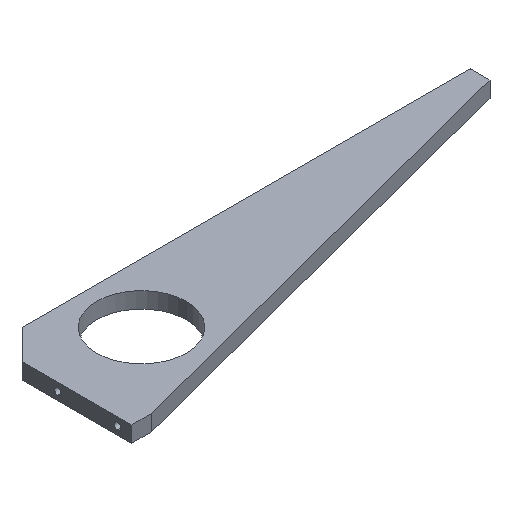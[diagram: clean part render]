
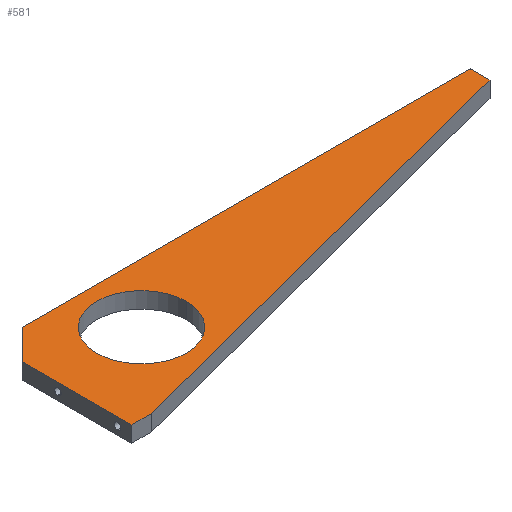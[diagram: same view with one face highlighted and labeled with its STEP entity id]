
A CAD part, isometric view. The second image highlights one B-rep face of the part: STEP entity #581.
In plain terms, the highlighted planar face has unit normal (0, 0, 1).
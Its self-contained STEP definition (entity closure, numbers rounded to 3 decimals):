
#4 = VERTEX_POINT ( 'NONE', #22 ) ;
#8 = EDGE_LOOP ( 'NONE', ( #50, #718 ) ) ;
#22 = CARTESIAN_POINT ( 'NONE',  ( 0., -15., 8. ) ) ;
#25 = ORIENTED_EDGE ( 'NONE', *, *, #105, .T. ) ;
#31 = CARTESIAN_POINT ( 'NONE',  ( 240., 0., 8. ) ) ;
#35 = VERTEX_POINT ( 'NONE', #778 ) ;
#50 = ORIENTED_EDGE ( 'NONE', *, *, #440, .F. ) ;
#57 = CARTESIAN_POINT ( 'NONE',  ( 10., -70., 8. ) ) ;
#62 = VECTOR ( 'NONE', #776, 1000. ) ;
#82 = ORIENTED_EDGE ( 'NONE', *, *, #811, .T. ) ;
#105 = EDGE_CURVE ( 'NONE', #4, #35, #369, .T. ) ;
#108 = DIRECTION ( 'NONE',  ( -1., 0., 0. ) ) ;
#112 = LINE ( 'NONE', #126, #62 ) ;
#126 = CARTESIAN_POINT ( 'NONE',  ( 10., -70., 8. ) ) ;
#127 = AXIS2_PLACEMENT_3D ( 'NONE', #325, #179, #651 ) ;
#155 = VECTOR ( 'NONE', #108, 1000. ) ;
#162 = VERTEX_POINT ( 'NONE', #762 ) ;
#179 = DIRECTION ( 'NONE',  ( 0., 0., 1. ) ) ;
#218 = CARTESIAN_POINT ( 'NONE',  ( 240., -10., 8. ) ) ;
#224 = CARTESIAN_POINT ( 'NONE',  ( 7.5, -7.5, 8. ) ) ;
#227 = LINE ( 'NONE', #224, #348 ) ;
#253 = EDGE_CURVE ( 'NONE', #35, #409, #547, .T. ) ;
#256 = VERTEX_POINT ( 'NONE', #611 ) ;
#285 = LINE ( 'NONE', #218, #406 ) ;
#304 = LINE ( 'NONE', #31, #155 ) ;
#308 = AXIS2_PLACEMENT_3D ( 'NONE', #624, #366, #690 ) ;
#313 = VERTEX_POINT ( 'NONE', #751 ) ;
#323 = VECTOR ( 'NONE', #598, 1000. ) ;
#325 = CARTESIAN_POINT ( 'NONE',  ( 45., -30., 8. ) ) ;
#332 = DIRECTION ( 'NONE',  ( 1., 0., 0. ) ) ;
#335 = FACE_OUTER_BOUND ( 'NONE', #818, .T. ) ;
#348 = VECTOR ( 'NONE', #747, 1000. ) ;
#356 = CARTESIAN_POINT ( 'NONE',  ( 22.5, -30., 8. ) ) ;
#366 = DIRECTION ( 'NONE',  ( 0., 0., 1. ) ) ;
#369 = LINE ( 'NONE', #643, #772 ) ;
#400 = FACE_BOUND ( 'NONE', #8, .T. ) ;
#405 = EDGE_CURVE ( 'NONE', #409, #162, #112, .T. ) ;
#406 = VECTOR ( 'NONE', #620, 1000. ) ;
#409 = VERTEX_POINT ( 'NONE', #57 ) ;
#415 = CARTESIAN_POINT ( 'NONE',  ( 240., 0., 8. ) ) ;
#424 = ORIENTED_EDGE ( 'NONE', *, *, #253, .T. ) ;
#440 = EDGE_CURVE ( 'NONE', #313, #793, #499, .T. ) ;
#463 = ORIENTED_EDGE ( 'NONE', *, *, #728, .T. ) ;
#484 = AXIS2_PLACEMENT_3D ( 'NONE', #607, #719, #332 ) ;
#499 = CIRCLE ( 'NONE', #127, 22.5 ) ;
#534 = PLANE ( 'NONE',  #484 ) ;
#547 = LINE ( 'NONE', #720, #323 ) ;
#581 = ADVANCED_FACE ( 'NONE', ( #400, #335 ), #534, .T. ) ;
#598 = DIRECTION ( 'NONE',  ( 1., 0., 0. ) ) ;
#607 = CARTESIAN_POINT ( 'NONE',  ( 0., 0., 8. ) ) ;
#611 = CARTESIAN_POINT ( 'NONE',  ( 15., 0., 8. ) ) ;
#619 = VERTEX_POINT ( 'NONE', #415 ) ;
#620 = DIRECTION ( 'NONE',  ( 0., 1., 0. ) ) ;
#624 = CARTESIAN_POINT ( 'NONE',  ( 45., -30., 8. ) ) ;
#643 = CARTESIAN_POINT ( 'NONE',  ( 0., 0., 8. ) ) ;
#650 = ORIENTED_EDGE ( 'NONE', *, *, #405, .T. ) ;
#651 = DIRECTION ( 'NONE',  ( 1., 0., 0. ) ) ;
#660 = ORIENTED_EDGE ( 'NONE', *, *, #822, .T. ) ;
#690 = DIRECTION ( 'NONE',  ( 1., 0., 0. ) ) ;
#702 = EDGE_CURVE ( 'NONE', #793, #313, #789, .T. ) ;
#718 = ORIENTED_EDGE ( 'NONE', *, *, #702, .F. ) ;
#719 = DIRECTION ( 'NONE',  ( 0., 0., 1. ) ) ;
#720 = CARTESIAN_POINT ( 'NONE',  ( 0., -70., 8. ) ) ;
#728 = EDGE_CURVE ( 'NONE', #619, #256, #304, .T. ) ;
#747 = DIRECTION ( 'NONE',  ( -0.707, -0.707, 0. ) ) ;
#751 = CARTESIAN_POINT ( 'NONE',  ( 67.5, -30., 8. ) ) ;
#762 = CARTESIAN_POINT ( 'NONE',  ( 240., -10., 8. ) ) ;
#772 = VECTOR ( 'NONE', #832, 1000. ) ;
#776 = DIRECTION ( 'NONE',  ( 0.968, 0.252, 0. ) ) ;
#778 = CARTESIAN_POINT ( 'NONE',  ( 0., -70., 8. ) ) ;
#789 = CIRCLE ( 'NONE', #308, 22.5 ) ;
#793 = VERTEX_POINT ( 'NONE', #356 ) ;
#811 = EDGE_CURVE ( 'NONE', #162, #619, #285, .T. ) ;
#818 = EDGE_LOOP ( 'NONE', ( #463, #660, #25, #424, #650, #82 ) ) ;
#822 = EDGE_CURVE ( 'NONE', #256, #4, #227, .T. ) ;
#832 = DIRECTION ( 'NONE',  ( 0., -1., 0. ) ) ;
